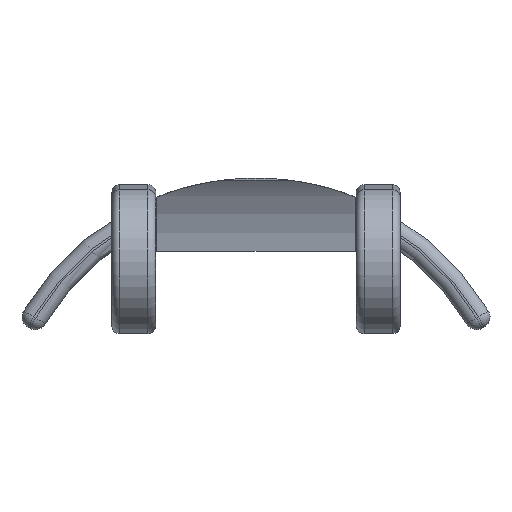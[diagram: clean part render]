
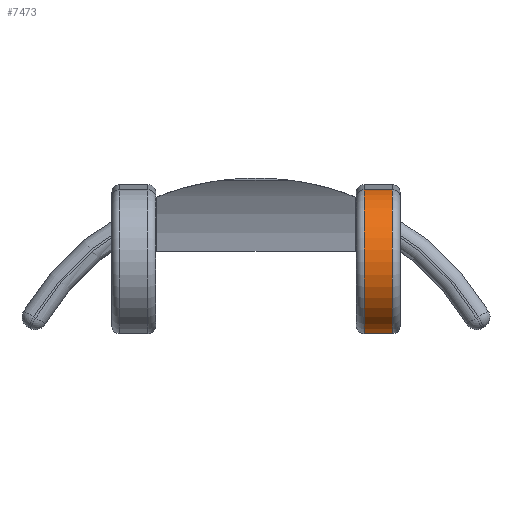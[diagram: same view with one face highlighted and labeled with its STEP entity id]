
A CAD part, left-side view. The second image highlights one B-rep face of the part: STEP entity #7473.
In plain terms, the highlighted cylindrical face has radius 5.6 mm (diameter 11.2 mm), a partial arc.
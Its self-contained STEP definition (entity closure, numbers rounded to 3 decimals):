
#192 = TOROIDAL_SURFACE('',#193,5.,0.6);
#193 = AXIS2_PLACEMENT_3D('',#194,#195,#196);
#194 = CARTESIAN_POINT('',(0.,-10.6,0.)
  );
#195 = DIRECTION('',(0.,-1.,0.));
#196 = DIRECTION('',(-0.036,0.,
    0.999));
#292 = VERTEX_POINT('',#293);
#293 = CARTESIAN_POINT('',(-0.203,-10.6,5.596));
#327 = PLANE('',#328);
#328 = AXIS2_PLACEMENT_3D('',#329,#330,#331);
#329 = CARTESIAN_POINT('',(10.891,-11.2,5.998));
#330 = DIRECTION('',(-0.036,0.,0.999));
#331 = DIRECTION('',(-0.999,0.,-0.036));
#841 = EDGE_CURVE('',#292,#842,#844,.T.);
#842 = VERTEX_POINT('',#843);
#843 = CARTESIAN_POINT('',(2.667,-10.6,-4.924));
#844 = SURFACE_CURVE('',#845,(#850,#857),.PCURVE_S1.);
#845 = CIRCLE('',#846,5.6);
#846 = AXIS2_PLACEMENT_3D('',#847,#848,#849);
#847 = CARTESIAN_POINT('',(0.,-10.6,0.)
  );
#848 = DIRECTION('',(0.,-1.,0.));
#849 = DIRECTION('',(-0.036,0.,
    0.999));
#850 = PCURVE('',#192,#851);
#851 = DEFINITIONAL_REPRESENTATION('',(#852),#856);
#852 = LINE('',#853,#854);
#853 = CARTESIAN_POINT('',(0.,0.));
#854 = VECTOR('',#855,1.);
#855 = DIRECTION('',(1.,0.));
#856 = ( GEOMETRIC_REPRESENTATION_CONTEXT(2) 
PARAMETRIC_REPRESENTATION_CONTEXT() REPRESENTATION_CONTEXT('2D SPACE',''
  ) );
#857 = PCURVE('',#858,#863);
#858 = CYLINDRICAL_SURFACE('',#859,5.6);
#859 = AXIS2_PLACEMENT_3D('',#860,#861,#862);
#860 = CARTESIAN_POINT('',(0.,-11.2,0.)
  );
#861 = DIRECTION('',(0.,-1.,-0.));
#862 = DIRECTION('',(-0.036,-0.,0.999));
#863 = DEFINITIONAL_REPRESENTATION('',(#864),#868);
#864 = LINE('',#865,#866);
#865 = CARTESIAN_POINT('',(0.,-0.6));
#866 = VECTOR('',#867,1.);
#867 = DIRECTION('',(1.,0.));
#868 = ( GEOMETRIC_REPRESENTATION_CONTEXT(2) 
PARAMETRIC_REPRESENTATION_CONTEXT() REPRESENTATION_CONTEXT('2D SPACE',''
  ) );
#958 = PLANE('',#959);
#959 = AXIS2_PLACEMENT_3D('',#960,#961,#962);
#960 = CARTESIAN_POINT('',(2.667,-11.2,-4.924));
#961 = DIRECTION('',(0.476,0.,-0.879));
#962 = DIRECTION('',(0.879,0.,0.476));
#7185 = VERTEX_POINT('',#7186);
#7186 = CARTESIAN_POINT('',(-0.203,-8.4,5.596));
#7212 = EDGE_CURVE('',#292,#7185,#7213,.T.);
#7213 = SURFACE_CURVE('',#7214,(#7218,#7225),.PCURVE_S1.);
#7214 = LINE('',#7215,#7216);
#7215 = CARTESIAN_POINT('',(-0.203,-11.2,5.596));
#7216 = VECTOR('',#7217,1.);
#7217 = DIRECTION('',(0.,1.,0.));
#7218 = PCURVE('',#327,#7219);
#7219 = DEFINITIONAL_REPRESENTATION('',(#7220),#7224);
#7220 = LINE('',#7221,#7222);
#7221 = CARTESIAN_POINT('',(11.101,0.));
#7222 = VECTOR('',#7223,1.);
#7223 = DIRECTION('',(0.,-1.));
#7224 = ( GEOMETRIC_REPRESENTATION_CONTEXT(2) 
PARAMETRIC_REPRESENTATION_CONTEXT() REPRESENTATION_CONTEXT('2D SPACE',''
  ) );
#7225 = PCURVE('',#858,#7226);
#7226 = DEFINITIONAL_REPRESENTATION('',(#7227),#7231);
#7227 = LINE('',#7228,#7229);
#7228 = CARTESIAN_POINT('',(0.,0.));
#7229 = VECTOR('',#7230,1.);
#7230 = DIRECTION('',(0.,-1.));
#7231 = ( GEOMETRIC_REPRESENTATION_CONTEXT(2) 
PARAMETRIC_REPRESENTATION_CONTEXT() REPRESENTATION_CONTEXT('2D SPACE',''
  ) );
#7473 = ADVANCED_FACE('',(#7474),#858,.T.);
#7474 = FACE_BOUND('',#7475,.T.);
#7475 = EDGE_LOOP('',(#7476,#7477,#7506,#7527));
#7476 = ORIENTED_EDGE('',*,*,#7212,.T.);
#7477 = ORIENTED_EDGE('',*,*,#7478,.T.);
#7478 = EDGE_CURVE('',#7185,#7479,#7481,.T.);
#7479 = VERTEX_POINT('',#7480);
#7480 = CARTESIAN_POINT('',(2.667,-8.4,-4.924));
#7481 = SURFACE_CURVE('',#7482,(#7487,#7494),.PCURVE_S1.);
#7482 = CIRCLE('',#7483,5.6);
#7483 = AXIS2_PLACEMENT_3D('',#7484,#7485,#7486);
#7484 = CARTESIAN_POINT('',(0.,-8.4,0.)
  );
#7485 = DIRECTION('',(0.,-1.,0.));
#7486 = DIRECTION('',(-0.036,0.,
    0.999));
#7487 = PCURVE('',#858,#7488);
#7488 = DEFINITIONAL_REPRESENTATION('',(#7489),#7493);
#7489 = LINE('',#7490,#7491);
#7490 = CARTESIAN_POINT('',(0.,-2.8));
#7491 = VECTOR('',#7492,1.);
#7492 = DIRECTION('',(1.,0.));
#7493 = ( GEOMETRIC_REPRESENTATION_CONTEXT(2) 
PARAMETRIC_REPRESENTATION_CONTEXT() REPRESENTATION_CONTEXT('2D SPACE',''
  ) );
#7494 = PCURVE('',#7495,#7500);
#7495 = TOROIDAL_SURFACE('',#7496,5.,0.6);
#7496 = AXIS2_PLACEMENT_3D('',#7497,#7498,#7499);
#7497 = CARTESIAN_POINT('',(0.,-8.4,0.)
  );
#7498 = DIRECTION('',(-0.,1.,0.));
#7499 = DIRECTION('',(-0.036,0.,
    0.999));
#7500 = DEFINITIONAL_REPRESENTATION('',(#7501),#7505);
#7501 = LINE('',#7502,#7503);
#7502 = CARTESIAN_POINT('',(-0.,0.));
#7503 = VECTOR('',#7504,1.);
#7504 = DIRECTION('',(-1.,0.));
#7505 = ( GEOMETRIC_REPRESENTATION_CONTEXT(2) 
PARAMETRIC_REPRESENTATION_CONTEXT() REPRESENTATION_CONTEXT('2D SPACE',''
  ) );
#7506 = ORIENTED_EDGE('',*,*,#7507,.F.);
#7507 = EDGE_CURVE('',#842,#7479,#7508,.T.);
#7508 = SURFACE_CURVE('',#7509,(#7513,#7520),.PCURVE_S1.);
#7509 = LINE('',#7510,#7511);
#7510 = CARTESIAN_POINT('',(2.667,-11.2,-4.924));
#7511 = VECTOR('',#7512,1.);
#7512 = DIRECTION('',(0.,1.,0.));
#7513 = PCURVE('',#858,#7514);
#7514 = DEFINITIONAL_REPRESENTATION('',(#7515),#7519);
#7515 = LINE('',#7516,#7517);
#7516 = CARTESIAN_POINT('',(3.602,0.));
#7517 = VECTOR('',#7518,1.);
#7518 = DIRECTION('',(0.,-1.));
#7519 = ( GEOMETRIC_REPRESENTATION_CONTEXT(2) 
PARAMETRIC_REPRESENTATION_CONTEXT() REPRESENTATION_CONTEXT('2D SPACE',''
  ) );
#7520 = PCURVE('',#958,#7521);
#7521 = DEFINITIONAL_REPRESENTATION('',(#7522),#7526);
#7522 = LINE('',#7523,#7524);
#7523 = CARTESIAN_POINT('',(0.,0.));
#7524 = VECTOR('',#7525,1.);
#7525 = DIRECTION('',(0.,-1.));
#7526 = ( GEOMETRIC_REPRESENTATION_CONTEXT(2) 
PARAMETRIC_REPRESENTATION_CONTEXT() REPRESENTATION_CONTEXT('2D SPACE',''
  ) );
#7527 = ORIENTED_EDGE('',*,*,#841,.F.);
